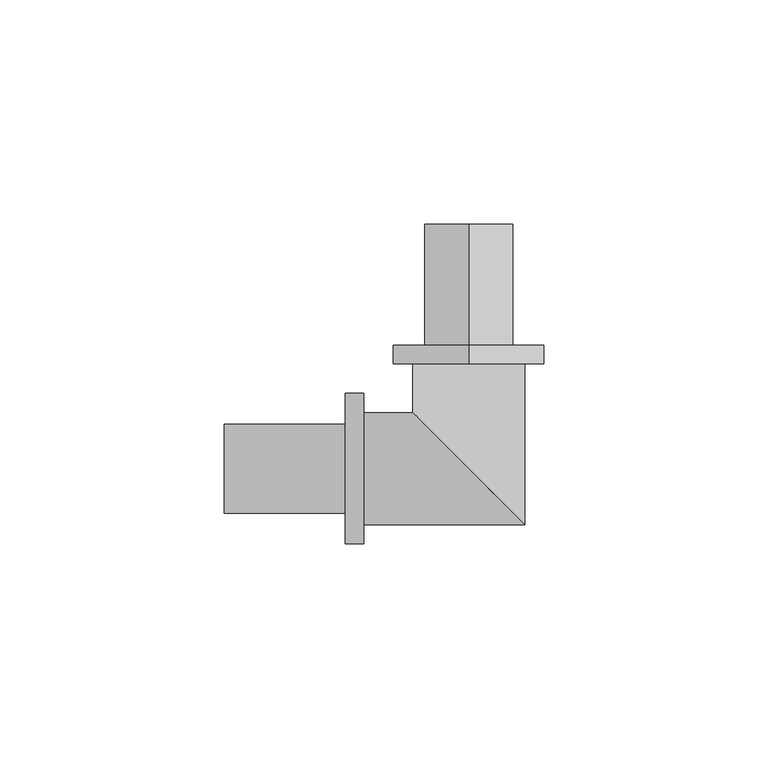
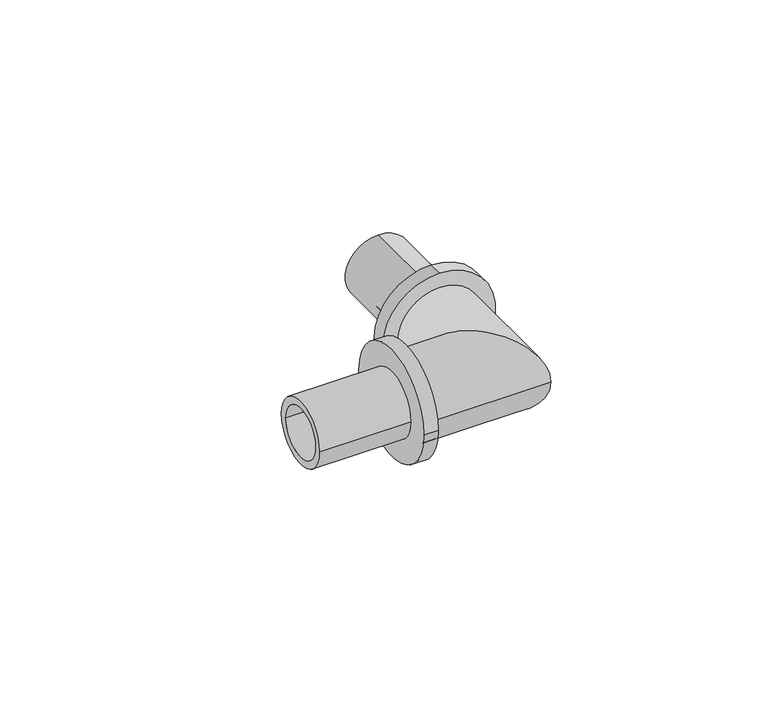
"""IFC4 building model written with IfcOpenShell, lengths in millimetres: pipe fitting geometry, RAUTITAN_Corner_LX : RTI LX C NL."""

from ifc_helpers import new_model, si_unit, frame, origin, place, context, project, spatial, polyline, circle_curve, ellipse_curve, source, transform, mapped, element, save
from ifc_brep_helpers import plane_surface, cylinder_surface, revolved_surface, advanced_brep


def pipe_fitting_19f48449(model_context):
    return source(origin(), model_context, "Body", "AdvancedBrep", [
        advanced_brep(
        [(0.0, 27.6, 16.8), (0.0, 27.6, -16.8), (0.0, 23.4, -16.8), (0.0, 23.4, 16.8), (0.0, 54.6, 9.9), (0.0, 54.6, -9.9), (0.0, 27.6, -9.9), (0.0, 27.6, 9.9), (0.0, 23.4, 7.6), (0.0, 23.4, -7.6), (0.0, 54.6, -7.6), (0.0, 54.6, 7.6)],
        [
            (0, 1, circle_curve(frame((0.0, 27.6, 0.0), z_axis=(0.0, -1.0, 0.0), x_axis=(0.0, 0.0, -1.0)), 16.8)),
            (1, 2),
            (2, 3, circle_curve(frame((0.0, 23.4, 0.0), z_axis=(0.0, 1.0, 0.0), x_axis=(0.0, 0.0, -1.0)), 16.8)),
            (3, 0),
            (4, 5, circle_curve(frame((0.0, 54.6, 0.0), z_axis=(0.0, -1.0, 0.0), x_axis=(0.0, 0.0, -1.0)), 9.9)),
            (5, 6),
            (6, 7, circle_curve(frame((0.0, 27.6, 0.0), z_axis=(0.0, 1.0, 0.0), x_axis=(0.0, 0.0, -1.0)), 9.9)),
            (7, 4),
            (8, 9, circle_curve(frame((0.0, 23.4, 0.0), z_axis=(0.0, -1.0, 0.0), x_axis=(0.0, 0.0, -1.0)), 7.6)),
            (9, 10),
            (10, 11, circle_curve(frame((0.0, 54.6, 0.0), z_axis=(0.0, 1.0, 0.0), x_axis=(0.0, 0.0, -1.0)), 7.6)),
            (11, 8),
            (1, 0, circle_curve(frame((0.0, 27.6, 0.0), z_axis=(0.0, -1.0, 0.0), x_axis=(0.0, 0.0, 1.0)), 16.8)),
            (3, 2, circle_curve(frame((0.0, 23.4, 0.0), z_axis=(0.0, 1.0, 0.0), x_axis=(0.0, 0.0, 1.0)), 16.8)),
            (6, 7, circle_curve(frame((0.0, 27.6, 0.0), z_axis=(0.0, -1.0, 0.0), x_axis=(0.0, 0.0, 1.0)), 9.9)),
            (5, 4, circle_curve(frame((0.0, 54.6, 0.0), z_axis=(0.0, -1.0, 0.0), x_axis=(0.0, 0.0, 1.0)), 9.9)),
            (10, 11, circle_curve(frame((0.0, 54.6, 0.0), z_axis=(0.0, -1.0, 0.0), x_axis=(0.0, 0.0, 1.0)), 7.6)),
            (9, 8, circle_curve(frame((0.0, 23.4, 0.0), z_axis=(0.0, -1.0, 0.0), x_axis=(0.0, 0.0, 1.0)), 7.6)),
        ],
        [
            cylinder_surface(frame((0.0, 23.4, 0.0), z_axis=(0.0, 1.0, 0.0), x_axis=(0.0, 0.0, -1.0)), 16.8),
            cylinder_surface(frame((0.0, 23.4, 0.0), z_axis=(0.0, 1.0, 0.0), x_axis=(0.0, 0.0, -1.0)), 9.9),
            revolved_surface(polyline([(0.0, 54.6, -7.6), (0.0, 23.4, -7.6)]), (0.0, 23.4, 0.0), (0.0, 1.0, 0.0)),
            cylinder_surface(frame((0.0, 23.4, 0.0), z_axis=(0.0, 1.0, 0.0), x_axis=(0.0, 0.0, 1.0)), 16.8),
            plane_surface(frame((0.0, 27.6, 0.0), z_axis=(0.0, 1.0, 0.0), x_axis=(0.0, 0.0, 1.0))),
            cylinder_surface(frame((0.0, 23.4, 0.0), z_axis=(0.0, 1.0, 0.0), x_axis=(0.0, 0.0, 1.0)), 9.9),
            plane_surface(frame((0.0, 54.6, 0.0), z_axis=(0.0, 1.0, 0.0), x_axis=(0.0, 0.0, 1.0))),
            revolved_surface(polyline([(0.0, 54.6, 7.6), (0.0, 23.4, 7.6)]), (0.0, 23.4, 0.0), (0.0, 1.0, 0.0)),
            plane_surface(frame((0.0, 23.4, 0.0), z_axis=(0.0, -1.0, 0.0), x_axis=(0.0, 0.0, 1.0))),
        ],
        [
            (0, [[1, 2, 3, 4]]),
            (1, [[5, 6, 7, 8]]),
            (2, [[9, 10, 11, 12]]),
            (3, [[13, -4, 14, -2]]),
            (4, [[-13, -1], [15, -7]]),
            (5, [[16, -8, -15, -6]]),
            (6, [[-16, -5], [17, -11]]),
            (7, [[18, -12, -17, -10]]),
            (8, [[-14, -3], [-18, -9]]),
        ],
    ),
        advanced_brep(
        [(-27.6, -16.8, 0.0), (-27.6, 16.8, 0.0), (-23.4, 16.8, 0.0), (-23.4, -16.8, 0.0), (-54.6, -9.9, 0.0), (-54.6, 9.9, 0.0), (-27.6, 9.9, 0.0), (-27.6, -9.9, 0.0), (-23.4, -7.6, 0.0), (-23.4, 7.6, 0.0), (-54.6, 7.6, 0.0), (-54.6, -7.6, 0.0)],
        [
            (0, 1, circle_curve(frame((-27.6, 0.0, 0.0), z_axis=(1.0, 0.0, 0.0), x_axis=(0.0, 1.0, 0.0)), 16.8)),
            (1, 2),
            (2, 3, circle_curve(frame((-23.4, 0.0, 0.0), z_axis=(-1.0, 0.0, 0.0), x_axis=(0.0, 1.0, 0.0)), 16.8)),
            (3, 0),
            (4, 5, circle_curve(frame((-54.6, 0.0, 0.0), z_axis=(1.0, 0.0, 0.0), x_axis=(0.0, 1.0, 0.0)), 9.9)),
            (5, 6),
            (6, 7, circle_curve(frame((-27.6, 0.0, 0.0), z_axis=(-1.0, 0.0, 0.0), x_axis=(0.0, 1.0, 0.0)), 9.9)),
            (7, 4),
            (8, 9, circle_curve(frame((-23.4, 0.0, 0.0), z_axis=(1.0, 0.0, 0.0), x_axis=(0.0, 1.0, 0.0)), 7.6)),
            (9, 10),
            (10, 11, circle_curve(frame((-54.6, 0.0, 0.0), z_axis=(-1.0, 0.0, 0.0), x_axis=(0.0, 1.0, 0.0)), 7.6)),
            (11, 8),
            (1, 0, circle_curve(frame((-27.6, 0.0, 0.0), z_axis=(1.0, 0.0, 0.0), x_axis=(0.0, -1.0, 0.0)), 16.8)),
            (3, 2, circle_curve(frame((-23.4, 0.0, 0.0), z_axis=(-1.0, 0.0, 0.0), x_axis=(0.0, -1.0, 0.0)), 16.8)),
            (6, 7, circle_curve(frame((-27.6, 0.0, 0.0), z_axis=(1.0, 0.0, 0.0), x_axis=(0.0, -1.0, 0.0)), 9.9)),
            (5, 4, circle_curve(frame((-54.6, 0.0, 0.0), z_axis=(1.0, 0.0, 0.0), x_axis=(0.0, -1.0, 0.0)), 9.9)),
            (10, 11, circle_curve(frame((-54.6, 0.0, 0.0), z_axis=(1.0, 0.0, 0.0), x_axis=(0.0, -1.0, 0.0)), 7.6)),
            (9, 8, circle_curve(frame((-23.4, 0.0, 0.0), z_axis=(1.0, 0.0, 0.0), x_axis=(0.0, -1.0, 0.0)), 7.6)),
        ],
        [
            cylinder_surface(frame((-23.4, 0.0, 0.0), z_axis=(-1.0, 0.0, 0.0), x_axis=(0.0, 1.0, 0.0)), 16.8),
            cylinder_surface(frame((-23.4, 0.0, 0.0), z_axis=(-1.0, 0.0, 0.0), x_axis=(0.0, 1.0, 0.0)), 9.9),
            revolved_surface(polyline([(-54.6, 7.6, 0.0), (-23.4, 7.6, 0.0)]), (-23.4, 0.0, 0.0), (-1.0, 0.0, 0.0)),
            cylinder_surface(frame((-23.4, 0.0, 0.0), z_axis=(-1.0, 0.0, 0.0), x_axis=(0.0, -1.0, 0.0)), 16.8),
            plane_surface(frame((-27.6, 0.0, 0.0), z_axis=(-1.0, 0.0, 0.0), x_axis=(0.0, -1.0, 0.0))),
            cylinder_surface(frame((-23.4, 0.0, 0.0), z_axis=(-1.0, 0.0, 0.0), x_axis=(0.0, -1.0, 0.0)), 9.9),
            plane_surface(frame((-54.6, 0.0, 0.0), z_axis=(-1.0, 0.0, 0.0), x_axis=(0.0, -1.0, 0.0))),
            revolved_surface(polyline([(-54.6, -7.6, 0.0), (-23.4, -7.6, 0.0)]), (-23.4, 0.0, 0.0), (-1.0, 0.0, 0.0)),
            plane_surface(frame((-23.4, 0.0, 0.0), z_axis=(1.0, 0.0, 0.0), x_axis=(0.0, -1.0, 0.0))),
        ],
        [
            (0, [[1, 2, 3, 4]]),
            (1, [[5, 6, 7, 8]]),
            (2, [[9, 10, 11, 12]]),
            (3, [[13, -4, 14, -2]]),
            (4, [[-13, -1], [15, -7]]),
            (5, [[16, -8, -15, -6]]),
            (6, [[-16, -5], [17, -11]]),
            (7, [[18, -12, -17, -10]]),
            (8, [[-14, -3], [-18, -9]]),
        ],
    ),
        advanced_brep(
        [(-23.4, -12.5, 0.0), (-23.4, 12.5, 0.0), (-23.4, -7.6, 0.0), (-23.4, 7.6, 0.0), (-7.6, 7.6, 0.0), (7.6, -7.6, 0.0), (12.5, 23.4, 0.0), (-12.5, 23.4, 0.0), (7.6, 23.4, 0.0), (-7.6, 23.4, 0.0), (12.5, -12.5, 0.0), (-12.5, 12.5, 0.0)],
        [
            (0, 1, circle_curve(frame((-23.4, 0.0, 0.0), z_axis=(-1.0, 0.0, 0.0), x_axis=(0.0, 1.0, 0.0)), 12.5)),
            (1, 0, circle_curve(frame((-23.4, 0.0, 0.0), z_axis=(-1.0, 0.0, 0.0), x_axis=(0.0, 1.0, 0.0)), 12.5)),
            (2, 3, circle_curve(frame((-23.4, 0.0, 0.0), z_axis=(1.0, 0.0, 0.0), x_axis=(0.0, 1.0, 0.0)), 7.6)),
            (3, 2, circle_curve(frame((-23.4, 0.0, 0.0), z_axis=(1.0, 0.0, 0.0), x_axis=(0.0, 1.0, 0.0)), 7.6)),
            (3, 4),
            (4, 5, ellipse_curve(frame((0.0, 0.0, 0.0), z_axis=(0.7071067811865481, 0.7071067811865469, 0.0), x_axis=(0.7071067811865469, -0.7071067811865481, 0.0)), 10.7480231, 7.6)),
            (5, 2),
            (5, 4, ellipse_curve(frame((0.0, 0.0, 0.0), z_axis=(0.7071067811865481, 0.7071067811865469, 0.0), x_axis=(0.7071067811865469, -0.7071067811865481, 0.0)), 10.7480231, 7.6)),
            (6, 7, circle_curve(frame((0.0, 23.4, 0.0), z_axis=(0.0, 1.0, 0.0), x_axis=(-1.0, 0.0, 0.0)), 12.5)),
            (7, 6, circle_curve(frame((0.0, 23.4, 0.0), z_axis=(0.0, 1.0, 0.0), x_axis=(-1.0, 0.0, 0.0)), 12.5)),
            (8, 9, circle_curve(frame((0.0, 23.4, 0.0), z_axis=(0.0, -1.0, 0.0), x_axis=(-1.0, 0.0, 0.0)), 7.6)),
            (9, 8, circle_curve(frame((0.0, 23.4, 0.0), z_axis=(0.0, -1.0, 0.0), x_axis=(-1.0, 0.0, 0.0)), 7.6)),
            (4, 9),
            (8, 5),
            (0, 10),
            (10, 11, ellipse_curve(frame((0.0, 0.0, 0.0), z_axis=(-0.7071067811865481, -0.7071067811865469, 0.0), x_axis=(-0.7071067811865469, 0.7071067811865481, 0.0)), 17.6776695, 12.5)),
            (11, 1),
            (11, 10, ellipse_curve(frame((0.0, 0.0, 0.0), z_axis=(-0.7071067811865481, -0.7071067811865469, 0.0), x_axis=(-0.7071067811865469, 0.7071067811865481, 0.0)), 17.6776695, 12.5)),
            (10, 6),
            (7, 11),
        ],
        [
            plane_surface(frame((-23.4, 0.0, 0.0), z_axis=(-1.0, 0.0, 0.0), x_axis=(0.0, 0.0, 1.0))),
            revolved_surface(polyline([(7.600000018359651, 7.6, 0.0), (-23.4, 7.6, 0.0)]), (-23.4, 0.0, 0.0), (1.0, 0.0, 0.0)),
            plane_surface(frame((0.0, 23.4, 0.0), z_axis=(0.0, 1.0, 0.0), x_axis=(0.0, 0.0, 1.0))),
            revolved_surface(polyline([(-7.6, 23.4, 0.0), (-7.6, -7.6000000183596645, 0.0)]), (0.0, 0.0, 0.0), (0.0, 1.0, 0.0)),
            cylinder_surface(frame((-23.4, 0.0, 0.0), z_axis=(-1.0, 0.0, 0.0), x_axis=(0.0, 1.0, 0.0)), 12.5),
            cylinder_surface(frame((0.0, 0.0, 0.0), z_axis=(0.0, -1.0, 0.0), x_axis=(-1.0, 0.0, 0.0)), 12.5),
        ],
        [
            (0, [[1, 2], [3, 4]]),
            (1, [[-4, 5, 6, 7]]),
            (1, [[-3, -7, 8, -5]]),
            (2, [[9, 10], [11, 12]]),
            (3, [[-6, 13, -11, 14]]),
            (3, [[-8, -14, -12, -13]]),
            (4, [[-1, 15, 16, 17]]),
            (4, [[-2, -17, 18, -15]]),
            (5, [[-16, 19, -10, 20]]),
            (5, [[-18, -20, -9, -19]]),
        ],
    ),
    ])


if __name__ == "__main__":
    model = new_model("IFC4")
    model_context = context("Model", 3, world=origin())
    ifc_project = project(units=[si_unit("LENGTHUNIT", "METRE", prefix="MILLI")], contexts=[model_context])
    site = spatial("IfcSite", under=ifc_project)
    building = spatial("IfcBuilding", under=site)
    placement = place(None, origin())
    pipe_fitting_shape = pipe_fitting_19f48449(model_context)
    element("IfcPipeFitting", 1, ObjectType="RAUTITAN_Corner_LX : RTI LX C NL", at=placement, inside=building, context=model_context, shape_type="MappedRepresentation", body=[
        mapped(pipe_fitting_shape, transform((0.0, 0.0, 0.0), x_axis=(1.0, 0.0, 0.0), y_axis=(0.0, 1.0, 0.0), z_axis=(0.0, 0.0, 1.0))),
    ])
    save(model, "model.ifc")
